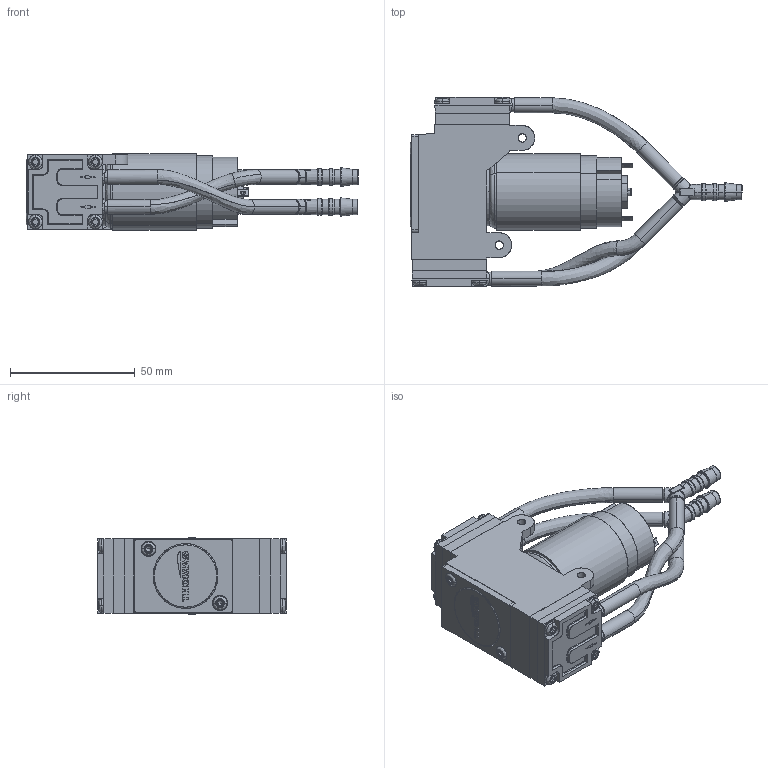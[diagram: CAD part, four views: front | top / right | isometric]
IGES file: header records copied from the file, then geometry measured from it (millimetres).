
Start section: SolidWorks IGES file using analytic representation for surfaces
Global section: file name: Q:\2016\03 Nautilus\41 6410 Shell Creation\Fertige Hüllen\14200201\14200201-18.IGS; native system: SolidWorks 2017; preprocessor: SolidWorks 2017; author: hxs2830; date: 181121.135452; units: metre
Bounding box: 133.15 x 75.8 x 30.7 mm (x, y, z)
Surface area: 26558.9 mm2 (no closed solid volume)
Topology: 0 solids, 0 shells, 1254 faces, 11702 edges, 11698 vertices
Faces by surface type: bspline 861, revolution 393
